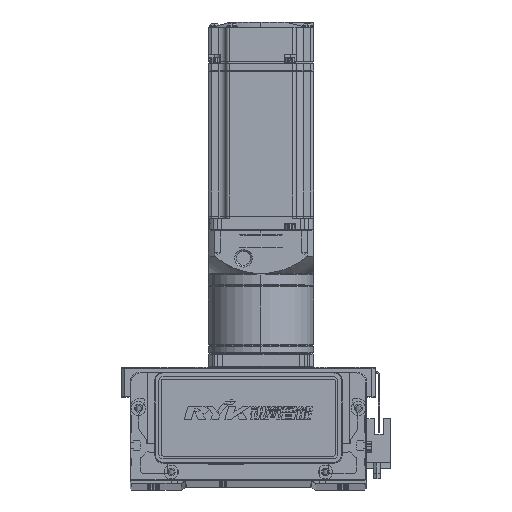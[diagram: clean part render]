
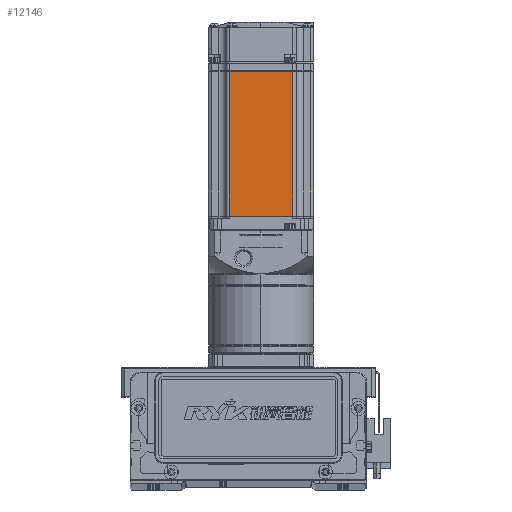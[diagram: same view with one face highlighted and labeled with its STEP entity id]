
A CAD part, top view. The second image highlights one B-rep face of the part: STEP entity #12146.
In plain terms, the highlighted planar face has unit normal (0, 0, 1).
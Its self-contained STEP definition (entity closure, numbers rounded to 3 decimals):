
#5570 = VECTOR ( 'NONE', #57251, 1000. ) ;
#7912 = CARTESIAN_POINT ( 'NONE',  ( -6.5, -18., 30. ) ) ;
#8970 = CARTESIAN_POINT ( 'NONE',  ( -7.75, 18., 30. ) ) ;
#9625 = EDGE_CURVE ( 'NONE', #55440, #88130, #30830, .T. ) ;
#10861 = AXIS2_PLACEMENT_3D ( 'NONE', #74643, #67703, #81537 ) ;
#12146 = ADVANCED_FACE ( 'NONE', ( #35929 ), #68284, .T. ) ;
#20174 = CARTESIAN_POINT ( 'NONE',  ( -90.45, 0., 30. ) ) ;
#22368 = CARTESIAN_POINT ( 'NONE',  ( -7.75, -18., 30. ) ) ;
#22600 = LINE ( 'NONE', #58196, #26897 ) ;
#23030 = DIRECTION ( 'NONE',  ( 0., -1., 0. ) ) ;
#26077 = ORIENTED_EDGE ( 'NONE', *, *, #81618, .F. ) ;
#26897 = VECTOR ( 'NONE', #23030, 1000. ) ;
#30830 = LINE ( 'NONE', #46196, #88998 ) ;
#32879 = EDGE_LOOP ( 'NONE', ( #26077, #62991, #65992, #42714 ) ) ;
#35929 = FACE_OUTER_BOUND ( 'NONE', #32879, .T. ) ;
#39788 = CARTESIAN_POINT ( 'NONE',  ( -90.45, 18., 30. ) ) ;
#42714 = ORIENTED_EDGE ( 'NONE', *, *, #54150, .F. ) ;
#43338 = LINE ( 'NONE', #7912, #5570 ) ;
#46196 = CARTESIAN_POINT ( 'NONE',  ( -6.5, 18., 30. ) ) ;
#49514 = CARTESIAN_POINT ( 'NONE',  ( -90.45, -18., 30. ) ) ;
#53748 = LINE ( 'NONE', #20174, #56874 ) ;
#54150 = EDGE_CURVE ( 'NONE', #65724, #83290, #43338, .T. ) ;
#55440 = VERTEX_POINT ( 'NONE', #8970 ) ;
#56874 = VECTOR ( 'NONE', #68242, 1000. ) ;
#57013 = DIRECTION ( 'NONE',  ( -1., 0., 0. ) ) ;
#57251 = DIRECTION ( 'NONE',  ( -1., 0., 0. ) ) ;
#58196 = CARTESIAN_POINT ( 'NONE',  ( -7.75, 0., 30. ) ) ;
#62991 = ORIENTED_EDGE ( 'NONE', *, *, #9625, .T. ) ;
#65724 = VERTEX_POINT ( 'NONE', #22368 ) ;
#65992 = ORIENTED_EDGE ( 'NONE', *, *, #82766, .T. ) ;
#67703 = DIRECTION ( 'NONE',  ( 0., 0., 1. ) ) ;
#68242 = DIRECTION ( 'NONE',  ( 0., -1., 0. ) ) ;
#68284 = PLANE ( 'NONE',  #10861 ) ;
#74643 = CARTESIAN_POINT ( 'NONE',  ( -6.5, -25., 30. ) ) ;
#81537 = DIRECTION ( 'NONE',  ( 1., 0., 0. ) ) ;
#81618 = EDGE_CURVE ( 'NONE', #55440, #65724, #22600, .T. ) ;
#82766 = EDGE_CURVE ( 'NONE', #88130, #83290, #53748, .T. ) ;
#83290 = VERTEX_POINT ( 'NONE', #49514 ) ;
#88130 = VERTEX_POINT ( 'NONE', #39788 ) ;
#88998 = VECTOR ( 'NONE', #57013, 1000. ) ;
